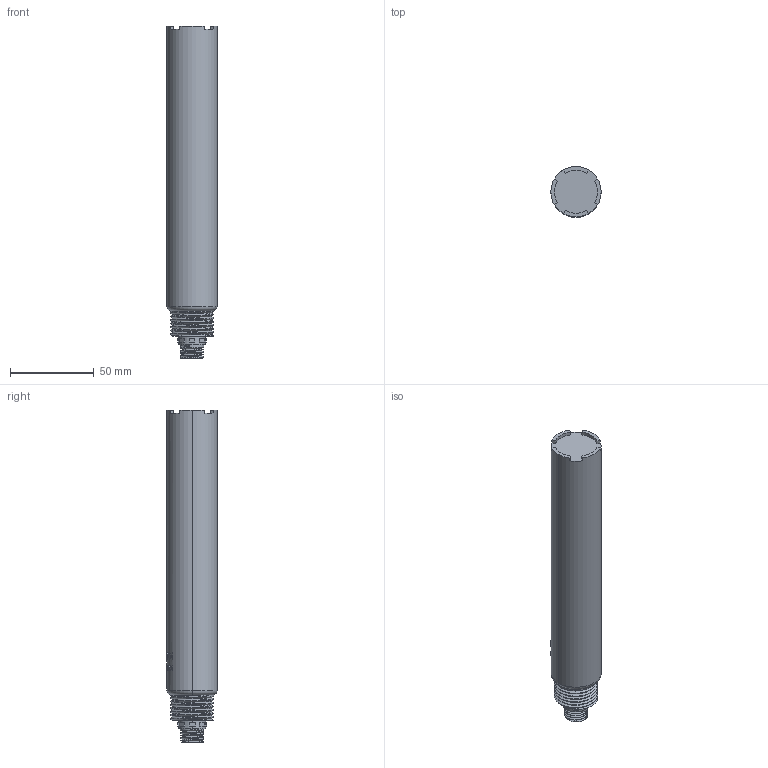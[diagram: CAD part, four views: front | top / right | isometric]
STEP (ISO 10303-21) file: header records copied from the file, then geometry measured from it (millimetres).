
FILE_DESCRIPTION((''),'2;1');
FILE_NAME('ASM0013_ASM','2026-01-26T10:57:21',('28740194'),(''),'CREO PARAMETRIC BY PTC INC, 2024063','CREO PARAMETRIC BY PTC INC, 2024063','');
FILE_SCHEMA(('CONFIG_CONTROL_DESIGN'));
Length unit declared in the file: millimetre
Products named in the file (5): KWS-650C-1; 0001; 222000; 260_ASM; ASM0013_ASM
Assembly tree (4 placements, depth 3):
  ASM0013_ASM
    KWS-650C-1
    260_ASM
      0001
      222000
Bounding box: 30 x 30.17 x 198 mm (x, y, z)
Volume: 127551.4 mm3; surface area: 22008.2 mm2
Topology: 3 solids, 3 shells, 540 faces, 1507 edges, 1002 vertices
Faces by surface type: bspline 415, plane 65, cylinder 58, torus 2
Entity records: 26147 total; most frequent: CARTESIAN_POINT 15249, ORIENTED_EDGE 3014, EDGE_CURVE 1507, B_SPLINE_CURVE_WITH_KNOTS 1049, VERTEX_POINT 1002, DIRECTION 945, EDGE_LOOP 569, FACE_OUTER_BOUND 540
